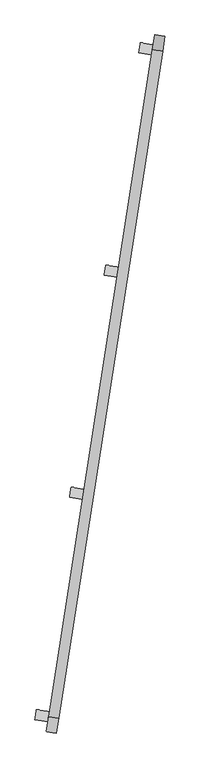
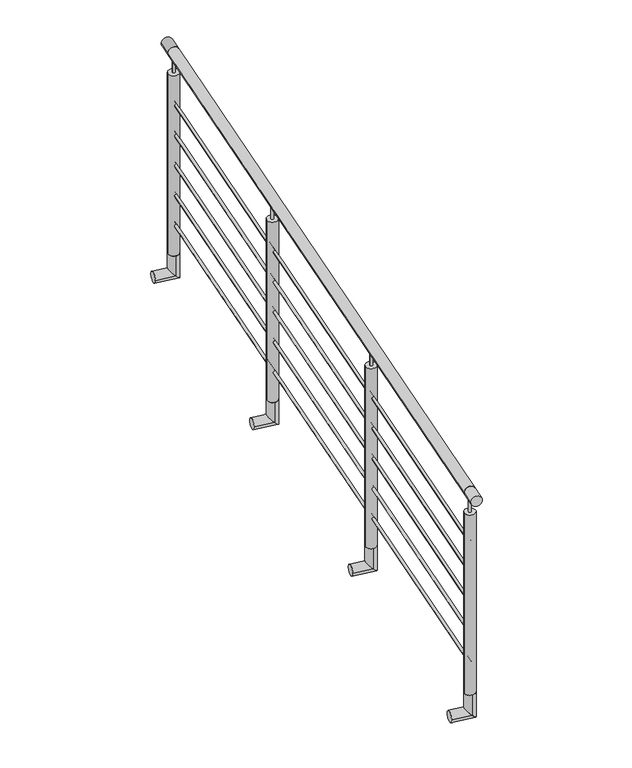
"""IFC4 building model written with IfcOpenShell, lengths in millimetres: railing geometry, Barandal acero inox - sobre ventana."""

import ifcopenshell
import ifcopenshell.guid

model = None  # the IFC model being written
_history = None  # IfcOwnerHistory: only IFC2X3 demands one
_inside = {}  # id of a spatial element -> (the spatial element, [elements in it])
_under = {}  # id of a project, library or spatial element -> (it, [spatial elements below it])
_declared = {}  # id of a project -> (the project, [libraries it declares])
_typed = {}  # id of a type object -> (the type object, [elements of that type])
_made_of = {}  # id of a material, layer set ... -> (it, [elements and type objects made of it])


def new_model(schema):
    """Start an empty IFC model of exactly this schema.

    Asked for "IFC4X3", IfcOpenShell would pick the latest addendum, in which some entities
    have other attributes; the version numbers below select the first issue.
    IFC2X3 requires an IfcOwnerHistory on every rooted entity: one is made here for all.
    """
    global model, _history
    if schema == "IFC4X3":
        model = ifcopenshell.file(schema_version=(4, 3, 0, 0))
    else:
        model = ifcopenshell.file(schema=schema)
    _inside.clear()
    _under.clear()
    _declared.clear()
    _typed.clear()
    _made_of.clear()
    _history = None
    if model.schema == "IFC2X3":
        org = make("IfcOrganization", Name="unknown")
        user = make(
            "IfcPersonAndOrganization",
            ThePerson=make("IfcPerson", FamilyName="unknown"),
            TheOrganization=org,
        )
        app = make(
            "IfcApplication",
            ApplicationDeveloper=org,
            Version="unknown",
            ApplicationFullName="unknown",
            ApplicationIdentifier="unknown",
        )
        _history = make(
            "IfcOwnerHistory",
            OwningUser=user,
            OwningApplication=app,
            ChangeAction="ADDED",
            CreationDate=0,
        )
    return model


def make(cls, **values):
    """One entity of the class cls with the attributes given. An attribute that is None is left unset."""
    return model.create_entity(
        cls, **{name: value for name, value in values.items() if value is not None}
    )


def rooted(cls, **values):
    """An entity with a GlobalId (a new one), such as an element, a storey or a relation."""
    return make(cls, GlobalId=ifcopenshell.guid.new(), OwnerHistory=_history, **values)


def si_unit(unit_type, name, prefix=None):
    """IfcSIUnit, for example si_unit("LENGTHUNIT", "METRE", prefix="MILLI")."""
    return make("IfcSIUnit", UnitType=unit_type, Prefix=prefix, Name=name)


def assignment(units):
    """IfcUnitAssignment: the units of a project."""
    return None if units is None else make("IfcUnitAssignment", Units=units)


def point(xyz):
    """IfcCartesianPoint."""
    return None if xyz is None else make("IfcCartesianPoint", Coordinates=xyz)


def direction(xyz):
    """IfcDirection."""
    return None if xyz is None else make("IfcDirection", DirectionRatios=xyz)


def frame(location, z_axis=None, x_axis=None):
    """IfcAxis2Placement3D, a coordinate frame: its origin and axes. An axis left out is left unset."""
    return make(
        "IfcAxis2Placement3D",
        Location=point(location),
        Axis=direction(z_axis),
        RefDirection=direction(x_axis),
    )


def frame_2d(location, x_axis=None):
    """IfcAxis2Placement2D, a coordinate frame in the plane: its origin and x axis."""
    return make(
        "IfcAxis2Placement2D", Location=point(location), RefDirection=direction(x_axis)
    )


def origin():
    """The frame at (0, 0, 0) with its axes left unset."""
    return frame((0.0, 0.0, 0.0))


def origin_2d():
    """The frame at (0, 0) in the plane with its x axis left unset."""
    return frame_2d((0.0, 0.0))


def place(relative_to, where):
    """IfcLocalPlacement: puts the frame where relative to a parent placement (None: the world)."""
    return make(
        "IfcLocalPlacement", PlacementRelTo=relative_to, RelativePlacement=where
    )


def context(
    kind, dimensions, precision=None, world=None, true_north=None, identifier=None
):
    """IfcGeometricRepresentationContext, for example the 3D "Model" context."""
    return make(
        "IfcGeometricRepresentationContext",
        ContextIdentifier=identifier,
        ContextType=kind,
        CoordinateSpaceDimension=dimensions,
        Precision=precision,
        WorldCoordinateSystem=world,
        TrueNorth=true_north,
    )


def project(units=None, contexts=None):
    """IfcProject with its units and contexts."""
    return rooted(
        "IfcProject",
        Name="project",
        RepresentationContexts=contexts,
        UnitsInContext=assignment(units),
    )


def spatial(cls, under=None, at=None, **own):
    """A site, building, storey or space (cls), placed at a placement, below another one or the project."""
    s = rooted(cls, ObjectPlacement=at, **own)
    if under is not None:
        _under.setdefault(under.id(), (under, []))[1].append(s)
    return s


def circle_curve(where, radius):
    """IfcCircle in the frame where."""
    return make("IfcCircle", Position=where, Radius=radius)


def ellipse_curve(where, semi_axis1, semi_axis2):
    """IfcEllipse in the frame where."""
    return make(
        "IfcEllipse", Position=where, SemiAxis1=semi_axis1, SemiAxis2=semi_axis2
    )


def trimmed(basis, trim1, trim2, sense, master):
    """IfcTrimmedCurve: the piece of a basis curve between two trims."""
    return make(
        "IfcTrimmedCurve",
        BasisCurve=basis,
        Trim1=trim1,
        Trim2=trim2,
        SenseAgreement=sense,
        MasterRepresentation=master,
    )


def segment(curve, same_sense, transition):
    """IfcCompositeCurveSegment."""
    return make(
        "IfcCompositeCurveSegment",
        Transition=transition,
        SameSense=same_sense,
        ParentCurve=curve,
    )


def composite_curve(segments, self_intersect=None):
    """IfcCompositeCurve: segments joined end to end."""
    return make("IfcCompositeCurve", Segments=segments, SelfIntersect=self_intersect)


def outline(outer, holes=None, kind="AREA"):
    """IfcArbitraryClosedProfileDef: a profile drawn as a closed curve; with holes, ...WithVoids."""
    if holes is None:
        return make("IfcArbitraryClosedProfileDef", ProfileType=kind, OuterCurve=outer)
    return make(
        "IfcArbitraryProfileDefWithVoids",
        ProfileType=kind,
        OuterCurve=outer,
        InnerCurves=holes,
    )


def extrude(swept, where, along, depth):
    """IfcExtrudedAreaSolid: the profile swept, set in the frame where, extruded along a direction by depth."""
    return make(
        "IfcExtrudedAreaSolid",
        SweptArea=swept,
        Position=where,
        ExtrudedDirection=direction(along),
        Depth=depth,
    )


def shape(context_of_items, identifier, shape_type, items):
    """IfcShapeRepresentation: the items that make up one representation, for example the "Body"."""
    return make(
        "IfcShapeRepresentation",
        ContextOfItems=context_of_items,
        RepresentationIdentifier=identifier,
        RepresentationType=shape_type,
        Items=items,
    )


def source(mapping_origin, context_of_items, identifier, shape_type, items):
    """IfcRepresentationMap: a shape defined once, which mapped items show again and again."""
    return make(
        "IfcRepresentationMap",
        MappingOrigin=mapping_origin,
        MappedRepresentation=shape(context_of_items, identifier, shape_type, items),
    )


def transform(
    local_origin,
    x_axis=None,
    y_axis=None,
    z_axis=None,
    scale=None,
    scale2=None,
    scale3=None,
    uniform=True,
):
    """IfcCartesianTransformationOperator3D, or its non-uniform kind. x_axis, y_axis, z_axis: its Axis1, 2, 3."""
    if uniform:
        return make(
            "IfcCartesianTransformationOperator3D",
            Axis1=direction(x_axis),
            Axis2=direction(y_axis),
            LocalOrigin=point(local_origin),
            Scale=scale,
            Axis3=direction(z_axis),
        )
    return make(
        "IfcCartesianTransformationOperator3DnonUniform",
        Axis1=direction(x_axis),
        Axis2=direction(y_axis),
        LocalOrigin=point(local_origin),
        Scale=scale,
        Axis3=direction(z_axis),
        Scale2=scale2,
        Scale3=scale3,
    )


def mapped(mapping_source, mapping_target):
    """IfcMappedItem: shows the shape of a source again, moved by a transform."""
    return make(
        "IfcMappedItem", MappingSource=mapping_source, MappingTarget=mapping_target
    )


def made_of(thing, what):
    """Note that an element or type object is made of a material, layer set ...; save() writes the relation."""
    if what is not None:
        _made_of.setdefault(what.id(), (what, []))[1].append(thing)
    return thing


def element(
    cls,
    number,
    at=None,
    inside=None,
    cuts=None,
    type_object=None,
    material=None,
    context=None,
    identifier="Body",
    shape_type=None,
    held_by="IfcProductDefinitionShape",
    body=None,
    shapes=None,
    **own,
):
    """One element of the class cls, such as IfcWall. Its Tag is "e" and its number.

    at: its placement. inside: the storey or other place that contains it. cuts: it is an
    opening in that element (IfcRelVoidsElement). A single representation is given by context,
    identifier, shape_type and body (its items); several are given by shapes. held_by: the class
    of the entity that holds the representations. save() writes the other relations.
    """
    e = rooted(cls, Tag="e%d" % number, ObjectPlacement=at, **own)
    if body is not None:
        shapes = [shape(context, identifier, shape_type, body)]
    if shapes is not None:
        e.Representation = make(held_by, Representations=shapes)
    if inside is not None:
        _inside.setdefault(inside.id(), (inside, []))[1].append(e)
    if cuts is not None:
        rooted(
            "IfcRelVoidsElement", RelatingBuildingElement=cuts, RelatedOpeningElement=e
        )
    if type_object is not None:
        _typed.setdefault(type_object.id(), (type_object, []))[1].append(e)
    return made_of(e, material)


def aggregate(whole, parts):
    """IfcRelAggregates: a whole, such as a stair, and the parts it consists of."""
    return rooted("IfcRelAggregates", RelatingObject=whole, RelatedObjects=parts)


def save(model, path):
    """Write the relations noted so far, then the file.

    IfcRelAggregates (storeys below a building ...), IfcRelContainedInSpatialStructure (elements
    in a storey), IfcRelDefinesByType, IfcRelAssociatesMaterial and IfcRelDeclares: one each for
    every whole, place, type object, material and project.
    """
    for whole, parts in _under.values():
        aggregate(whole, parts)
    for where, things in _inside.values():
        rooted(
            "IfcRelContainedInSpatialStructure",
            RelatedElements=things,
            RelatingStructure=where,
        )
    for kind, things in _typed.values():
        rooted("IfcRelDefinesByType", RelatedObjects=things, RelatingType=kind)
    for what, things in _made_of.values():
        rooted("IfcRelAssociatesMaterial", RelatedObjects=things, RelatingMaterial=what)
    for by, libraries in _declared.values():
        rooted("IfcRelDeclares", RelatingContext=by, RelatedDefinitions=libraries)
    model.write(path)


def plane_surface(at):
    """IfcPlane: the flat surface through the origin of the frame at, square to its z axis."""
    return make("IfcPlane", Position=at)


def cylinder_surface(at, radius):
    """IfcCylindricalSurface: all points at the distance radius from the z axis of the frame at."""
    return make("IfcCylindricalSurface", Position=at, Radius=radius)


def advanced_brep(points, edges, surfaces, faces):
    """IfcAdvancedBrep: a solid bounded by faces that lie on surfaces and meet in shared edges.

    An edge is (start, end): straight between two places in points (the first is 0);
    or (start, end, curve); or (start, end, curve, False) where it runs against its curve.
    A face is (place in surfaces, loops), or (place, loops, False) where it looks against
    its surface's normal. A loop lists edges by number (the first is 1), with a minus sign
    where the edge is run from its end to its start. The first loop is the outer one.
    """
    corners = [point(p) for p in points]
    vertices = [make("IfcVertexPoint", VertexGeometry=c) for c in corners]
    made = []
    for start, end, *more in edges:
        made.append(
            make(
                "IfcEdgeCurve",
                EdgeStart=vertices[start],
                EdgeEnd=vertices[end],
                EdgeGeometry=more[0] if more else make("IfcPolyline", Points=[corners[start], corners[end]]),
                SameSense=more[1] if len(more) > 1 else True,
            )
        )
    hull = []
    for where, loops, *sense in faces:
        bounds = []
        for j, loop in enumerate(loops):
            ring = [make("IfcOrientedEdge", EdgeElement=made[abs(k) - 1], Orientation=k > 0) for k in loop]
            bounds.append(
                make(
                    "IfcFaceOuterBound" if j == 0 else "IfcFaceBound",
                    Bound=make("IfcEdgeLoop", EdgeList=ring),
                    Orientation=True,
                )
            )
        hull.append(make("IfcAdvancedFace", Bounds=bounds, FaceSurface=surfaces[where], SameSense=sense[0] if sense else True))
    return make("IfcAdvancedBrep", Outer=make("IfcClosedShell", CfsFaces=hull))


def railing_e631b45e(model_context):
    return source(origin(), model_context, "Body", "SolidModel", [
        extrude(outline(composite_curve([segment(trimmed(circle_curve(origin_2d(), 25.4), [point((25.4, 0.0))], [point((-25.4, 0.0))], False, "CARTESIAN"), True, "CONTINUOUS"), segment(trimmed(circle_curve(origin_2d(), 25.4), [point((-25.4, 0.0))], [point((25.4, 0.0))], False, "CARTESIAN"), True, "CONTINUOUS")], self_intersect=False)), frame((-24555.830367, -78316.1255501, 4200.0), z_axis=(0.15400987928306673, 0.9880693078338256, 0.0), x_axis=(0.9880693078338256, -0.15400987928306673, 0.0)), (0.0, 0.0, 1.0), 3355.0000009),
        extrude(outline(composite_curve([segment(trimmed(circle_curve(origin_2d(), 6.35), [point((6.35, 0.0))], [point((-6.35, 0.0))], False, "CARTESIAN"), True, "CONTINUOUS"), segment(trimmed(circle_curve(origin_2d(), 6.35), [point((-6.35, 0.0))], [point((6.35, 0.0))], False, "CARTESIAN"), True, "CONTINUOUS")], self_intersect=False)), frame((-24555.830367, -78316.1255501, 3950.0), z_axis=(0.15400987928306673, 0.9880693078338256, 0.0), x_axis=(0.9880693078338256, -0.15400987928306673, 0.0)), (0.0, 0.0, 1.0), 3355.0000009),
        extrude(outline(composite_curve([segment(trimmed(circle_curve(origin_2d(), 6.35), [point((6.35, 0.0))], [point((-6.35, 0.0))], False, "CARTESIAN"), True, "CONTINUOUS"), segment(trimmed(circle_curve(origin_2d(), 6.35), [point((-6.35, 0.0))], [point((6.35, 0.0))], False, "CARTESIAN"), True, "CONTINUOUS")], self_intersect=False)), frame((-24555.830367, -78316.1255501, 3800.0), z_axis=(0.15400987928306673, 0.9880693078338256, 0.0), x_axis=(0.9880693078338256, -0.15400987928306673, 0.0)), (0.0, 0.0, 1.0), 3355.0000009),
        extrude(outline(composite_curve([segment(trimmed(circle_curve(origin_2d(), 6.35), [point((6.35, 0.0))], [point((-6.35, 0.0))], False, "CARTESIAN"), True, "CONTINUOUS"), segment(trimmed(circle_curve(origin_2d(), 6.35), [point((-6.35, 0.0))], [point((6.35, 0.0))], False, "CARTESIAN"), True, "CONTINUOUS")], self_intersect=False)), frame((-24555.830367, -78316.1255501, 3650.0), z_axis=(0.15400987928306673, 0.9880693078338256, 0.0), x_axis=(0.9880693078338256, -0.15400987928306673, 0.0)), (0.0, 0.0, 1.0), 3355.0000009),
        extrude(outline(composite_curve([segment(trimmed(circle_curve(origin_2d(), 6.35), [point((6.35, 0.0))], [point((-6.35, 0.0))], False, "CARTESIAN"), True, "CONTINUOUS"), segment(trimmed(circle_curve(origin_2d(), 6.35), [point((-6.35, 0.0))], [point((6.35, 0.0))], False, "CARTESIAN"), True, "CONTINUOUS")], self_intersect=False)), frame((-24555.830367, -78316.1255501, 3500.0), z_axis=(0.15400987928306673, 0.9880693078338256, 0.0), x_axis=(0.9880693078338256, -0.15400987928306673, 0.0)), (0.0, 0.0, 1.0), 3355.0000009),
        extrude(outline(composite_curve([segment(trimmed(circle_curve(origin_2d(), 6.35), [point((6.35, 0.0))], [point((-6.35, 0.0))], False, "CARTESIAN"), True, "CONTINUOUS"), segment(trimmed(circle_curve(origin_2d(), 6.35), [point((-6.35, 0.0))], [point((6.35, 0.0))], False, "CARTESIAN"), True, "CONTINUOUS")], self_intersect=False)), frame((-24555.830367, -78316.1255501, 3350.0), z_axis=(0.15400987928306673, 0.9880693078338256, 0.0), x_axis=(0.9880693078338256, -0.15400987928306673, 0.0)), (0.0, 0.0, 1.0), 3355.0000009),
        advanced_brep(
        [(-24215.2734545, -76131.2408247, 3200.0), (-24207.4497526, -76081.0469039, 3200.0), (-24207.4497526, -76081.0469039, 3100.0), (-24215.2734545, -76131.2408247, 3100.0), (-24304.1996922, -76117.3799356, 3100.0), (-24296.3759903, -76067.1860147, 3100.0)],
        [
            (0, 1, circle_curve(frame((-24211.3616036, -76106.1438643, 3200.0), z_axis=(0.0, 0.0, 1.0), x_axis=(0.15400987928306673, 0.9880693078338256, 0.0)), 25.4)),
            (1, 0, circle_curve(frame((-24211.3616036, -76106.1438643, 3200.0), z_axis=(0.0, 0.0, 1.0), x_axis=(0.15400987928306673, 0.9880693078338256, 0.0)), 25.4)),
            (1, 2),
            (2, 3, ellipse_curve(frame((-24211.3616036, -76106.1438643, 3100.0), z_axis=(0.6986705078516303, -0.10890143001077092, 0.7071067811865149), x_axis=(-0.6986705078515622, 0.10890143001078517, 0.7071067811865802)), 35.9210245, 25.4)),
            (3, 0),
            (3, 2, ellipse_curve(frame((-24211.3616036, -76106.1438643, 3100.0), z_axis=(0.6986705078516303, -0.10890143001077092, 0.7071067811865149), x_axis=(-0.6986705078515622, 0.10890143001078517, 0.7071067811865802)), 35.9210245, 25.4)),
            (4, 5, circle_curve(frame((-24300.2878413, -76092.2829752, 3100.0), z_axis=(-0.9880693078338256, 0.15400987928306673, 0.0), x_axis=(0.15400987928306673, 0.9880693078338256, 0.0)), 25.4)),
            (5, 4, circle_curve(frame((-24300.2878413, -76092.2829752, 3100.0), z_axis=(-0.9880693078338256, 0.15400987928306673, 0.0), x_axis=(0.15400987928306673, 0.9880693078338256, 0.0)), 25.4)),
            (2, 5),
            (4, 3),
        ],
        [
            plane_surface(frame((-24211.3616036, -76106.1438643, 3200.0), z_axis=(0.0, 0.0, 1.0), x_axis=(0.15400987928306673, 0.9880693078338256, 0.0))),
            cylinder_surface(frame((-24211.3616036, -76106.1438643, 3200.0), z_axis=(0.0, 0.0, 1.0), x_axis=(0.15400987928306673, 0.9880693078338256, 0.0)), 25.4),
            plane_surface(frame((-24300.2878413, -76092.2829752, 3100.0), z_axis=(-0.9880693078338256, 0.15400987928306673, 0.0), x_axis=(0.15400987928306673, 0.9880693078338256, 0.0))),
            cylinder_surface(frame((-24211.3616036, -76106.1438643, 3100.0), z_axis=(0.9880693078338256, -0.15400987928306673, 0.0), x_axis=(0.15400987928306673, 0.9880693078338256, 0.0)), 25.4),
        ],
        [
            (0, [[1, 2]]),
            (1, [[3, 4, 5, -2]]),
            (1, [[-5, 6, -3, -1]]),
            (2, [[7, 8]]),
            (3, [[9, -7, 10, -4]]),
            (3, [[-10, -8, -9, -6]]),
        ],
    ),
        extrude(outline(composite_curve([segment(trimmed(circle_curve(frame_2d((-24211.3616036, -76106.1438643)), 6.35), [point((-24217.6358437, -76105.1659016))], [point((-24205.0873635, -76107.121827))], False, "CARTESIAN"), True, "CONTINUOUS"), segment(trimmed(circle_curve(frame_2d((-24211.3616036, -76106.1438643)), 6.35), [point((-24205.0873635, -76107.121827))], [point((-24217.6358437, -76105.1659016))], False, "CARTESIAN"), True, "CONTINUOUS")], self_intersect=False)), frame((0.0, 0.0, 4099.6), z_axis=(0.0, 0.0, 1.0), x_axis=(1.0, 0.0, 0.0)), (0.0, 0.0, 1.0), 75.0),
        extrude(outline(composite_curve([segment(trimmed(circle_curve(frame_2d((-24211.3616036, -76106.1438643)), 25.4), [point((-24236.458564, -76102.2320134))], [point((-24186.2646431, -76110.0557152))], False, "CARTESIAN"), True, "CONTINUOUS"), segment(trimmed(circle_curve(frame_2d((-24211.3616036, -76106.1438643)), 25.4), [point((-24186.2646431, -76110.0557152))], [point((-24236.458564, -76102.2320134))], False, "CARTESIAN"), True, "CONTINUOUS")], self_intersect=False)), frame((0.0, 0.0, 3200.0), z_axis=(0.0, 0.0, 1.0), x_axis=(1.0, 0.0, 0.0)), (0.0, 0.0, 1.0), 899.6),
        advanced_brep(
        [(-24387.5078362, -77236.2316676, 3200.0), (-24379.6841343, -77186.0377468, 3200.0), (-24379.6841343, -77186.0377468, 3100.0), (-24387.5078362, -77236.2316676, 3100.0), (-24476.4340739, -77222.3707785, 3100.0), (-24468.610372, -77172.1768577, 3100.0)],
        [
            (0, 1, circle_curve(frame((-24383.5959853, -77211.1347072, 3200.0), z_axis=(0.0, 0.0, 1.0), x_axis=(0.15400987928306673, 0.9880693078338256, 0.0)), 25.4)),
            (1, 0, circle_curve(frame((-24383.5959853, -77211.1347072, 3200.0), z_axis=(0.0, 0.0, 1.0), x_axis=(0.15400987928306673, 0.9880693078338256, 0.0)), 25.4)),
            (1, 2),
            (2, 3, ellipse_curve(frame((-24383.5959853, -77211.1347072, 3100.0), z_axis=(0.6986705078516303, -0.10890143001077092, 0.7071067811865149), x_axis=(-0.6986705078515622, 0.10890143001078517, 0.7071067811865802)), 35.9210245, 25.4)),
            (3, 0),
            (3, 2, ellipse_curve(frame((-24383.5959853, -77211.1347072, 3100.0), z_axis=(0.6986705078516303, -0.10890143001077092, 0.7071067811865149), x_axis=(-0.6986705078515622, 0.10890143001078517, 0.7071067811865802)), 35.9210245, 25.4)),
            (4, 5, circle_curve(frame((-24472.522223, -77197.2738181, 3100.0), z_axis=(-0.9880693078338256, 0.15400987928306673, 0.0), x_axis=(0.15400987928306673, 0.9880693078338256, 0.0)), 25.4)),
            (5, 4, circle_curve(frame((-24472.522223, -77197.2738181, 3100.0), z_axis=(-0.9880693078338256, 0.15400987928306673, 0.0), x_axis=(0.15400987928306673, 0.9880693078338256, 0.0)), 25.4)),
            (2, 5),
            (4, 3),
        ],
        [
            plane_surface(frame((-24383.5959853, -77211.1347072, 3200.0), z_axis=(0.0, 0.0, 1.0), x_axis=(0.15400987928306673, 0.9880693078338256, 0.0))),
            cylinder_surface(frame((-24383.5959853, -77211.1347072, 3200.0), z_axis=(0.0, 0.0, 1.0), x_axis=(0.15400987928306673, 0.9880693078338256, 0.0)), 25.4),
            plane_surface(frame((-24472.522223, -77197.2738181, 3100.0), z_axis=(-0.9880693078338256, 0.15400987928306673, 0.0), x_axis=(0.15400987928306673, 0.9880693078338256, 0.0))),
            cylinder_surface(frame((-24383.5959853, -77211.1347072, 3100.0), z_axis=(0.9880693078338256, -0.15400987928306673, 0.0), x_axis=(0.15400987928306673, 0.9880693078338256, 0.0)), 25.4),
        ],
        [
            (0, [[1, 2]]),
            (1, [[3, 4, 5, -2]]),
            (1, [[-5, 6, -3, -1]]),
            (2, [[7, 8]]),
            (3, [[9, -7, 10, -4]]),
            (3, [[-10, -8, -9, -6]]),
        ],
    ),
        extrude(outline(composite_curve([segment(trimmed(circle_curve(frame_2d((-24383.5959853, -77211.1347072)), 6.35), [point((-24389.8702254, -77210.1567445))], [point((-24377.3217452, -77212.1126699))], False, "CARTESIAN"), True, "CONTINUOUS"), segment(trimmed(circle_curve(frame_2d((-24383.5959853, -77211.1347072)), 6.35), [point((-24377.3217452, -77212.1126699))], [point((-24389.8702254, -77210.1567445))], False, "CARTESIAN"), True, "CONTINUOUS")], self_intersect=False)), frame((0.0, 0.0, 4099.6), z_axis=(0.0, 0.0, 1.0), x_axis=(1.0, 0.0, 0.0)), (0.0, 0.0, 1.0), 75.0),
        extrude(outline(composite_curve([segment(trimmed(circle_curve(frame_2d((-24383.5959853, -77211.1347072)), 25.4), [point((-24408.6929457, -77207.2228563))], [point((-24358.4990249, -77215.0465581))], False, "CARTESIAN"), True, "CONTINUOUS"), segment(trimmed(circle_curve(frame_2d((-24383.5959853, -77211.1347072)), 25.4), [point((-24358.4990249, -77215.0465581))], [point((-24408.6929457, -77207.2228563))], False, "CARTESIAN"), True, "CONTINUOUS")], self_intersect=False)), frame((0.0, 0.0, 3200.0), z_axis=(0.0, 0.0, 1.0), x_axis=(1.0, 0.0, 0.0)), (0.0, 0.0, 1.0), 899.6),
        advanced_brep(
        [(-24043.0390728, -75026.2499818, 3200.0), (-24035.2153709, -74976.056061, 3200.0), (-24035.2153709, -74976.056061, 3100.0), (-24043.0390728, -75026.2499818, 3100.0), (-24131.9653105, -75012.3890927, 3100.0), (-24124.1416086, -74962.1951718, 3100.0)],
        [
            (0, 1, circle_curve(frame((-24039.1272218, -75001.1530214, 3200.0), z_axis=(0.0, 0.0, 1.0), x_axis=(0.15400987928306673, 0.9880693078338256, 0.0)), 25.4)),
            (1, 0, circle_curve(frame((-24039.1272218, -75001.1530214, 3200.0), z_axis=(0.0, 0.0, 1.0), x_axis=(0.15400987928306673, 0.9880693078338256, 0.0)), 25.4)),
            (1, 2),
            (2, 3, ellipse_curve(frame((-24039.1272218, -75001.1530214, 3100.0), z_axis=(0.6986705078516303, -0.10890143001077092, 0.7071067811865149), x_axis=(-0.6986705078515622, 0.10890143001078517, 0.7071067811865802)), 35.9210245, 25.4)),
            (3, 0),
            (3, 2, ellipse_curve(frame((-24039.1272218, -75001.1530214, 3100.0), z_axis=(0.6986705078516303, -0.10890143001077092, 0.7071067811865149), x_axis=(-0.6986705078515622, 0.10890143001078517, 0.7071067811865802)), 35.9210245, 25.4)),
            (4, 5, circle_curve(frame((-24128.0534596, -74987.2921323, 3100.0), z_axis=(-0.9880693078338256, 0.15400987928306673, 0.0), x_axis=(0.15400987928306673, 0.9880693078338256, 0.0)), 25.4)),
            (5, 4, circle_curve(frame((-24128.0534596, -74987.2921323, 3100.0), z_axis=(-0.9880693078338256, 0.15400987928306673, 0.0), x_axis=(0.15400987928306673, 0.9880693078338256, 0.0)), 25.4)),
            (2, 5),
            (4, 3),
        ],
        [
            plane_surface(frame((-24039.1272218, -75001.1530214, 3200.0), z_axis=(0.0, 0.0, 1.0), x_axis=(0.15400987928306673, 0.9880693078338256, 0.0))),
            cylinder_surface(frame((-24039.1272218, -75001.1530214, 3200.0), z_axis=(0.0, 0.0, 1.0), x_axis=(0.15400987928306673, 0.9880693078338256, 0.0)), 25.4),
            plane_surface(frame((-24128.0534596, -74987.2921323, 3100.0), z_axis=(-0.9880693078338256, 0.15400987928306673, 0.0), x_axis=(0.15400987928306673, 0.9880693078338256, 0.0))),
            cylinder_surface(frame((-24039.1272218, -75001.1530214, 3100.0), z_axis=(0.9880693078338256, -0.15400987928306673, 0.0), x_axis=(0.15400987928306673, 0.9880693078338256, 0.0)), 25.4),
        ],
        [
            (0, [[1, 2]]),
            (1, [[3, 4, 5, -2]]),
            (1, [[-5, 6, -3, -1]]),
            (2, [[7, 8]]),
            (3, [[9, -7, 10, -4]]),
            (3, [[-10, -8, -9, -6]]),
        ],
    ),
        extrude(outline(composite_curve([segment(trimmed(circle_curve(frame_2d((0.0, 25.4)), 25.4), [point((0.0, 50.8000001))], [point((0.0, 0.0))], False, "CARTESIAN"), True, "CONTINUOUS"), segment(trimmed(circle_curve(frame_2d((0.0, 25.4)), 25.4), [point((0.0, 0.0))], [point((0.0, 50.8000001))], False, "CARTESIAN"), True, "CONTINUOUS")], self_intersect=False)), frame((-24014.0302614, -75005.0648723, 4200.0), z_axis=(0.15400987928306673, 0.9880693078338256, 0.0), x_axis=(0.0, 0.0, -1.0)), (0.0, 0.0, 1.0), 75.0),
        extrude(outline(composite_curve([segment(trimmed(circle_curve(frame_2d((-24039.1272218, -75001.1530214)), 6.35), [point((-24045.401462, -75000.1750587))], [point((-24032.8529817, -75002.1309841))], False, "CARTESIAN"), True, "CONTINUOUS"), segment(trimmed(circle_curve(frame_2d((-24039.1272218, -75001.1530214)), 6.35), [point((-24032.8529817, -75002.1309841))], [point((-24045.401462, -75000.1750587))], False, "CARTESIAN"), True, "CONTINUOUS")], self_intersect=False)), frame((0.0, 0.0, 4099.6), z_axis=(0.0, 0.0, 1.0), x_axis=(1.0, 0.0, 0.0)), (0.0, 0.0, 1.0), 75.0),
        extrude(outline(composite_curve([segment(trimmed(circle_curve(frame_2d((-24039.1272218, -75001.1530214)), 25.4), [point((-24064.2241823, -74997.2411705))], [point((-24014.0302614, -75005.0648723))], False, "CARTESIAN"), True, "CONTINUOUS"), segment(trimmed(circle_curve(frame_2d((-24039.1272218, -75001.1530214)), 25.4), [point((-24014.0302614, -75005.0648723))], [point((-24064.2241823, -74997.2411705))], False, "CARTESIAN"), True, "CONTINUOUS")], self_intersect=False)), frame((0.0, 0.0, 3200.0), z_axis=(0.0, 0.0, 1.0), x_axis=(1.0, 0.0, 0.0)), (0.0, 0.0, 1.0), 899.6),
        advanced_brep(
        [(-24559.7422179, -78341.2225105, 3200.0), (-24551.9185161, -78291.0285897, 3200.0), (-24551.9185161, -78291.0285897, 3100.0), (-24559.7422179, -78341.2225105, 3100.0), (-24648.6684556, -78327.3616214, 3100.0), (-24640.8447538, -78277.1677006, 3100.0)],
        [
            (0, 1, circle_curve(frame((-24555.830367, -78316.1255501, 3200.0), z_axis=(0.0, 0.0, 1.0), x_axis=(0.15400987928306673, 0.9880693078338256, 0.0)), 25.4)),
            (1, 0, circle_curve(frame((-24555.830367, -78316.1255501, 3200.0), z_axis=(0.0, 0.0, 1.0), x_axis=(0.15400987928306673, 0.9880693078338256, 0.0)), 25.4)),
            (1, 2),
            (2, 3, ellipse_curve(frame((-24555.830367, -78316.1255501, 3100.0), z_axis=(0.6986705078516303, -0.10890143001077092, 0.7071067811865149), x_axis=(-0.6986705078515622, 0.10890143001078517, 0.7071067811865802)), 35.9210245, 25.4)),
            (3, 0),
            (3, 2, ellipse_curve(frame((-24555.830367, -78316.1255501, 3100.0), z_axis=(0.6986705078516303, -0.10890143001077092, 0.7071067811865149), x_axis=(-0.6986705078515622, 0.10890143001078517, 0.7071067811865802)), 35.9210245, 25.4)),
            (4, 5, circle_curve(frame((-24644.7566047, -78302.264661, 3100.0), z_axis=(-0.9880693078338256, 0.15400987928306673, 0.0), x_axis=(0.15400987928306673, 0.9880693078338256, 0.0)), 25.4)),
            (5, 4, circle_curve(frame((-24644.7566047, -78302.264661, 3100.0), z_axis=(-0.9880693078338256, 0.15400987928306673, 0.0), x_axis=(0.15400987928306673, 0.9880693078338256, 0.0)), 25.4)),
            (2, 5),
            (4, 3),
        ],
        [
            plane_surface(frame((-24555.830367, -78316.1255501, 3200.0), z_axis=(0.0, 0.0, 1.0), x_axis=(0.15400987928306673, 0.9880693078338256, 0.0))),
            cylinder_surface(frame((-24555.830367, -78316.1255501, 3200.0), z_axis=(0.0, 0.0, 1.0), x_axis=(0.15400987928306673, 0.9880693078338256, 0.0)), 25.4),
            plane_surface(frame((-24644.7566047, -78302.264661, 3100.0), z_axis=(-0.9880693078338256, 0.15400987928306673, 0.0), x_axis=(0.15400987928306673, 0.9880693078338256, 0.0))),
            cylinder_surface(frame((-24555.830367, -78316.1255501, 3100.0), z_axis=(0.9880693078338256, -0.15400987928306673, 0.0), x_axis=(0.15400987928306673, 0.9880693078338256, 0.0)), 25.4),
        ],
        [
            (0, [[1, 2]]),
            (1, [[3, 4, 5, -2]]),
            (1, [[-5, 6, -3, -1]]),
            (2, [[7, 8]]),
            (3, [[9, -7, 10, -4]]),
            (3, [[-10, -8, -9, -6]]),
        ],
    ),
        extrude(outline(composite_curve([segment(trimmed(circle_curve(frame_2d((0.0, 25.4)), 25.4), [point((0.0, 50.8000001))], [point((0.0, 0.0))], False, "CARTESIAN"), True, "CONTINUOUS"), segment(trimmed(circle_curve(frame_2d((0.0, 25.4)), 25.4), [point((0.0, 0.0))], [point((0.0, 50.8000001))], False, "CARTESIAN"), True, "CONTINUOUS")], self_intersect=False)), frame((-24542.2841475, -78394.1425991, 4200.0), z_axis=(0.15400987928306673, 0.9880693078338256, 0.0), x_axis=(0.0, 0.0, -1.0)), (0.0, 0.0, 1.0), 75.0),
        extrude(outline(composite_curve([segment(trimmed(circle_curve(frame_2d((-24555.830367, -78316.1255501)), 6.35), [point((-24562.1046071, -78315.1475874))], [point((-24549.5561269, -78317.1035128))], False, "CARTESIAN"), True, "CONTINUOUS"), segment(trimmed(circle_curve(frame_2d((-24555.830367, -78316.1255501)), 6.35), [point((-24549.5561269, -78317.1035128))], [point((-24562.1046071, -78315.1475874))], False, "CARTESIAN"), True, "CONTINUOUS")], self_intersect=False)), frame((0.0, 0.0, 4099.6), z_axis=(0.0, 0.0, 1.0), x_axis=(1.0, 0.0, 0.0)), (0.0, 0.0, 1.0), 75.0),
        extrude(outline(composite_curve([segment(trimmed(circle_curve(frame_2d((-24555.830367, -78316.1255501)), 25.4), [point((-24580.9273274, -78312.2136992))], [point((-24530.7334066, -78320.037401))], False, "CARTESIAN"), True, "CONTINUOUS"), segment(trimmed(circle_curve(frame_2d((-24555.830367, -78316.1255501)), 25.4), [point((-24530.7334066, -78320.037401))], [point((-24580.9273274, -78312.2136992))], False, "CARTESIAN"), True, "CONTINUOUS")], self_intersect=False)), frame((0.0, 0.0, 3200.0), z_axis=(0.0, 0.0, 1.0), x_axis=(1.0, 0.0, 0.0)), (0.0, 0.0, 1.0), 899.6),
    ])


if __name__ == "__main__":
    model = new_model("IFC4")
    model_context = context("Model", 3, world=origin())
    ifc_project = project(units=[si_unit("LENGTHUNIT", "METRE", prefix="MILLI")], contexts=[model_context])
    site = spatial("IfcSite", under=ifc_project)
    building = spatial("IfcBuilding", under=site)
    placement = place(None, origin())
    railing_shape = railing_e631b45e(model_context)
    element("IfcRailing", 1, ObjectType="Barandal acero inox - sobre ventana", at=placement, inside=building, context=model_context, shape_type="MappedRepresentation", body=[
        mapped(railing_shape, transform((0.0, 0.0, 0.0), x_axis=(1.0, 0.0, 0.0), y_axis=(0.0, 1.0, 0.0), z_axis=(0.0, 0.0, 1.0))),
    ])
    save(model, "model.ifc")
